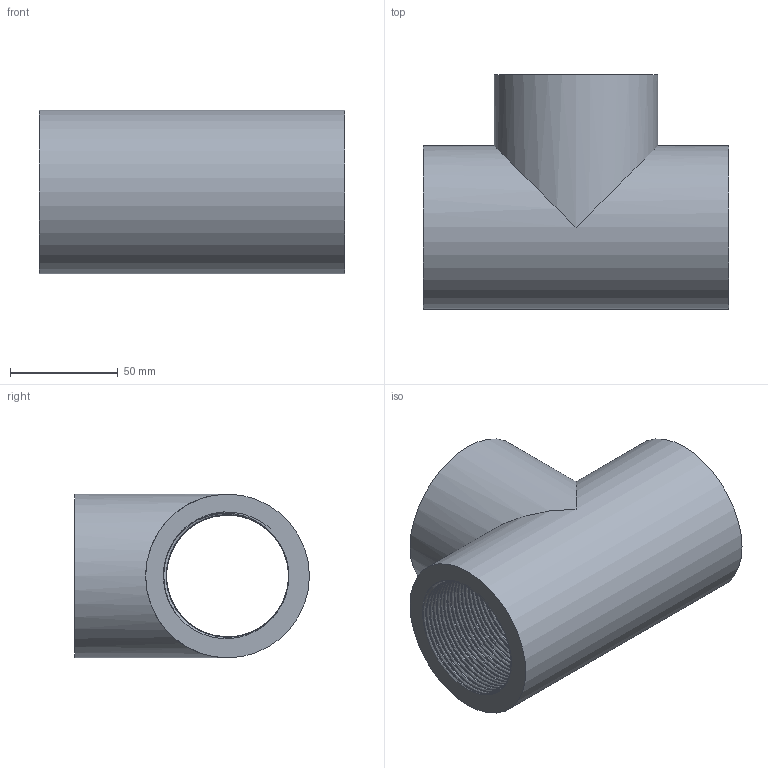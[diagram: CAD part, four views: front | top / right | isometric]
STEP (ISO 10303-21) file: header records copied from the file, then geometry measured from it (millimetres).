
FILE_DESCRIPTION(/* description */ ('(descrizione)'),/* implementation_level */ '2;1');
FILE_NAME(/* name */ 'C:\Users\POLYPIPE\Desktop\DATASET INVENTOR\LIBRERIA EFFAST\RACCORDI 3DxWEB\RER\3D_RERTIE\3D_RERTIE063G.stp',/* time_stamp */ '2018-01-19T17:21:04+01:00',/* author */ ('POLYPIPE'),/* organization */ ('Polypipe Italia s.r.l.'),/* preprocessor_version */ 'ST-DEVELOPER v16.1',/* originating_system */ 'Autodesk Inventor 2016',/* authorisation */ '');
FILE_SCHEMA (('CONFIG_CONTROL_DESIGN'));
Length unit declared in the file: millimetre
Products named in the file (1): 3D_RERTIE
Bounding box: 142 x 109 x 76 mm (x, y, z)
Volume: 327899.9 mm3; surface area: 92251.8 mm2
Topology: 1 solids, 1 shells, 25 faces, 70 edges, 46 vertices
Faces by surface type: bspline 15, plane 6, cylinder 4
Full cylindrical faces by diameter (mm): 56.656 x2, 76 x2
Entity records: 19769 total; most frequent: CARTESIAN_POINT 19252, ORIENTED_EDGE 116, DIRECTION 63, EDGE_CURVE 58, VERTEX_POINT 40, EDGE_LOOP 34, B_SPLINE_CURVE_WITH_KNOTS 33, AXIS2_PLACEMENT_3D 27
